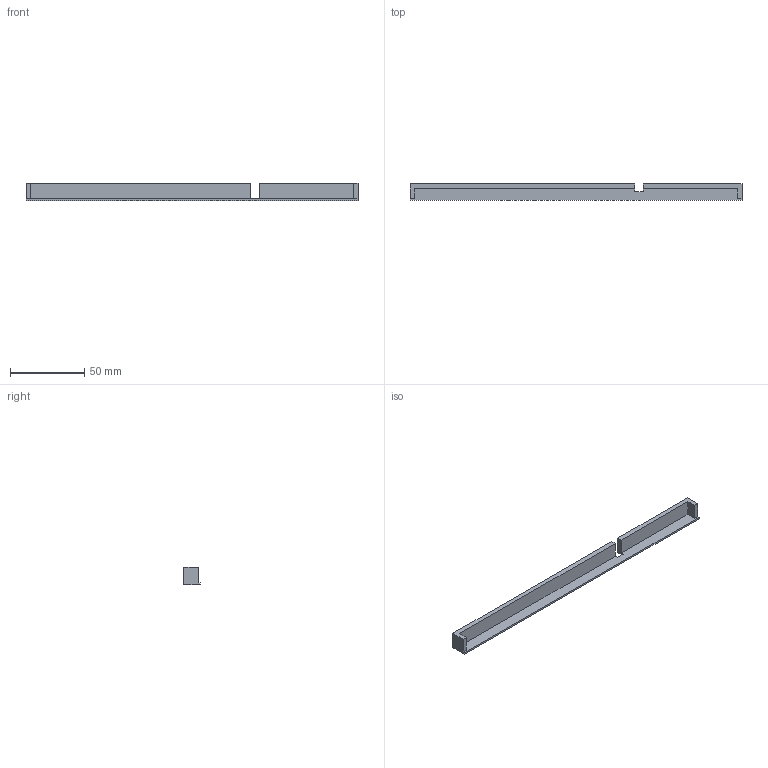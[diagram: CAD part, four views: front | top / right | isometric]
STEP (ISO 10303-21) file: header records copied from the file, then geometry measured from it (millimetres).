
FILE_DESCRIPTION(('Open CASCADE Model'),'2;1');
FILE_NAME('Open CASCADE Shape Model','2026-11-07T14:08:05',('Author'),( 'Open CASCADE'),'Open CASCADE STEP processor 7.9','Open CASCADE 7.9' ,'Unknown');
FILE_SCHEMA(('AUTOMOTIVE_DESIGN { 1 0 10303 214 1 1 1 1 }'));
Length unit declared in the file: millimetre
Products named in the file (1): Open CASCADE STEP translator 7.9 7
Bounding box: 224 x 11 x 11.8 mm (x, y, z)
Volume: 10974.2 mm3; surface area: 10491 mm2
Topology: 1 solids, 1 shells, 18 faces, 48 edges, 32 vertices
Faces by surface type: plane 18
Entity records: 1154 total; most frequent: CARTESIAN_POINT 227, DIRECTION 150, LINE 112, VECTOR 112, ORIENTED_EDGE 96, PCURVE 96, DEFINITIONAL_REPRESENTATION 96, EDGE_CURVE 48
